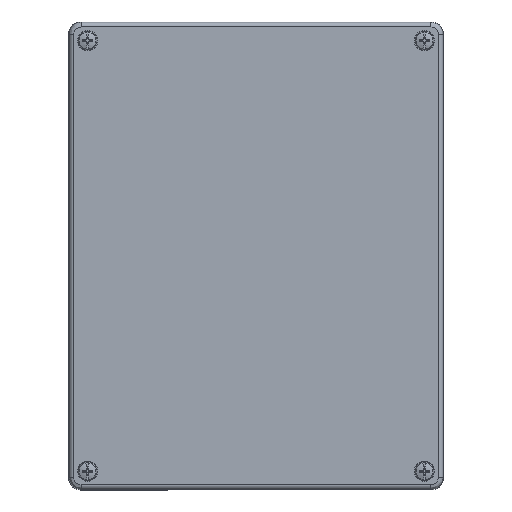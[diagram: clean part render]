
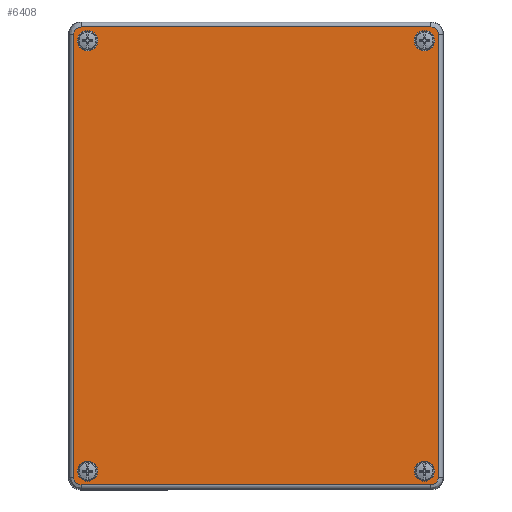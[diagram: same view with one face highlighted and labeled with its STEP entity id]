
A CAD part, top view. The second image highlights one B-rep face of the part: STEP entity #6408.
In plain terms, the highlighted planar face has unit normal (0, 0, 1).
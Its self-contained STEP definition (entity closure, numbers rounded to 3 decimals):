
#85=ELLIPSE('',#7093,3.93,3.93);
#87=ELLIPSE('',#7098,3.93,3.93);
#89=ELLIPSE('',#7104,3.93,3.93);
#91=ELLIPSE('',#7109,3.93,3.93);
#181=FACE_BOUND('',#2312,.T.);
#182=FACE_BOUND('',#2313,.T.);
#183=FACE_BOUND('',#2314,.T.);
#184=FACE_BOUND('',#2315,.T.);
#393=PLANE('',#7117);
#883=LINE('',#10973,#1353);
#889=LINE('',#11058,#1359);
#891=LINE('',#11061,#1361);
#893=LINE('',#11064,#1363);
#1353=VECTOR('',#8871,236.746);
#1359=VECTOR('',#8899,186.746);
#1361=VECTOR('',#8903,236.746);
#1363=VECTOR('',#8907,186.746);
#1840=FACE_OUTER_BOUND('',#2311,.T.);
#2311=EDGE_LOOP('',(#5693,#5694,#5695,#5696,#5697,#5698,#5699,#5700));
#2312=EDGE_LOOP('',(#5701));
#2313=EDGE_LOOP('',(#5702));
#2314=EDGE_LOOP('',(#5703));
#2315=EDGE_LOOP('',(#5704));
#2614=CIRCLE('',#6872,5.4);
#2617=CIRCLE('',#6878,5.4);
#2620=CIRCLE('',#6884,5.4);
#2623=CIRCLE('',#6890,5.4);
#3135=VERTEX_POINT('',#10441);
#3138=VERTEX_POINT('',#10450);
#3141=VERTEX_POINT('',#10459);
#3144=VERTEX_POINT('',#10468);
#3274=VERTEX_POINT('',#10920);
#3276=VERTEX_POINT('',#10924);
#3278=VERTEX_POINT('',#10961);
#3280=VERTEX_POINT('',#10965);
#3282=VERTEX_POINT('',#11005);
#3284=VERTEX_POINT('',#11009);
#3286=VERTEX_POINT('',#11046);
#3288=VERTEX_POINT('',#11050);
#3874=EDGE_CURVE('',#3135,#3135,#2614,.T.);
#3877=EDGE_CURVE('',#3138,#3138,#2617,.T.);
#3880=EDGE_CURVE('',#3141,#3141,#2620,.T.);
#3883=EDGE_CURVE('',#3144,#3144,#2623,.T.);
#4095=EDGE_CURVE('',#3276,#3274,#85,.T.);
#4101=EDGE_CURVE('',#3280,#3278,#87,.T.);
#4105=EDGE_CURVE('',#3274,#3280,#883,.T.);
#4109=EDGE_CURVE('',#3284,#3282,#89,.T.);
#4115=EDGE_CURVE('',#3288,#3286,#91,.T.);
#4119=EDGE_CURVE('',#3278,#3288,#889,.T.);
#4121=EDGE_CURVE('',#3286,#3284,#891,.T.);
#4123=EDGE_CURVE('',#3282,#3276,#893,.T.);
#5693=ORIENTED_EDGE('',*,*,#4115,.F.);
#5694=ORIENTED_EDGE('',*,*,#4119,.F.);
#5695=ORIENTED_EDGE('',*,*,#4101,.F.);
#5696=ORIENTED_EDGE('',*,*,#4105,.F.);
#5697=ORIENTED_EDGE('',*,*,#4095,.F.);
#5698=ORIENTED_EDGE('',*,*,#4123,.F.);
#5699=ORIENTED_EDGE('',*,*,#4109,.F.);
#5700=ORIENTED_EDGE('',*,*,#4121,.F.);
#5701=ORIENTED_EDGE('',*,*,#3874,.T.);
#5702=ORIENTED_EDGE('',*,*,#3877,.T.);
#5703=ORIENTED_EDGE('',*,*,#3880,.T.);
#5704=ORIENTED_EDGE('',*,*,#3883,.T.);
#6408=ADVANCED_FACE('',(#1840,#181,#182,#183,#184),#393,.T.);
#6872=AXIS2_PLACEMENT_3D('',#10442,#8316,#8317);
#6878=AXIS2_PLACEMENT_3D('',#10451,#8328,#8329);
#6884=AXIS2_PLACEMENT_3D('',#10460,#8340,#8341);
#6890=AXIS2_PLACEMENT_3D('',#10469,#8352,#8353);
#7093=AXIS2_PLACEMENT_3D('',#10926,#8850,#8851);
#7098=AXIS2_PLACEMENT_3D('',#10967,#8862,#8863);
#7104=AXIS2_PLACEMENT_3D('',#11011,#8878,#8879);
#7109=AXIS2_PLACEMENT_3D('',#11052,#8890,#8891);
#7117=AXIS2_PLACEMENT_3D('',#11068,#8914,#8915);
#8316=DIRECTION('center_axis',(0.,0.,-1.));
#8317=DIRECTION('ref_axis',(1.,0.,0.));
#8328=DIRECTION('center_axis',(0.,0.,-1.));
#8329=DIRECTION('ref_axis',(1.,0.,0.));
#8340=DIRECTION('center_axis',(0.,0.,-1.));
#8341=DIRECTION('ref_axis',(1.,0.,0.));
#8352=DIRECTION('center_axis',(0.,0.,-1.));
#8353=DIRECTION('ref_axis',(1.,0.,0.));
#8850=DIRECTION('center_axis',(0.,0.,-1.));
#8851=DIRECTION('ref_axis',(-0.707,-0.707,0.));
#8862=DIRECTION('center_axis',(0.,0.,-1.));
#8863=DIRECTION('ref_axis',(-0.707,0.707,0.));
#8871=DIRECTION('',(0.,1.,0.));
#8878=DIRECTION('center_axis',(0.,0.,-1.));
#8879=DIRECTION('ref_axis',(0.707,-0.707,0.));
#8890=DIRECTION('center_axis',(0.,0.,-1.));
#8891=DIRECTION('ref_axis',(0.707,0.707,0.));
#8899=DIRECTION('',(1.,0.,0.));
#8903=DIRECTION('',(0.,-1.,0.));
#8907=DIRECTION('',(-1.,0.,0.));
#8914=DIRECTION('center_axis',(0.,0.,1.));
#8915=DIRECTION('ref_axis',(1.,0.,0.));
#10441=CARTESIAN_POINT('',(-84.6,-115.,25.1));
#10442=CARTESIAN_POINT('Origin',(-90.,-115.,25.1));
#10450=CARTESIAN_POINT('',(95.4,-115.,25.1));
#10451=CARTESIAN_POINT('Origin',(90.,-115.,25.1));
#10459=CARTESIAN_POINT('',(95.4,115.,25.1));
#10460=CARTESIAN_POINT('Origin',(90.,115.,25.1));
#10468=CARTESIAN_POINT('',(-84.6,115.,25.1));
#10469=CARTESIAN_POINT('Origin',(-90.,115.,25.1));
#10920=CARTESIAN_POINT('',(-97.303,-118.373,25.1));
#10924=CARTESIAN_POINT('',(-93.373,-122.303,25.1));
#10926=CARTESIAN_POINT('Origin',(-93.373,-118.373,25.1));
#10961=CARTESIAN_POINT('',(-93.373,122.303,25.1));
#10965=CARTESIAN_POINT('',(-97.303,118.373,25.1));
#10967=CARTESIAN_POINT('Origin',(-93.373,118.373,25.1));
#10973=CARTESIAN_POINT('',(-97.303,-62.5,25.1));
#11005=CARTESIAN_POINT('',(93.373,-122.303,25.1));
#11009=CARTESIAN_POINT('',(97.303,-118.373,25.1));
#11011=CARTESIAN_POINT('Origin',(93.373,-118.373,25.1));
#11046=CARTESIAN_POINT('',(97.303,118.373,25.1));
#11050=CARTESIAN_POINT('',(93.373,122.303,25.1));
#11052=CARTESIAN_POINT('Origin',(93.373,118.373,25.1));
#11058=CARTESIAN_POINT('',(-50.,122.303,25.1));
#11061=CARTESIAN_POINT('',(97.303,62.5,25.1));
#11064=CARTESIAN_POINT('',(50.,-122.303,25.1));
#11068=CARTESIAN_POINT('Origin',(0.,0.,
25.1));
